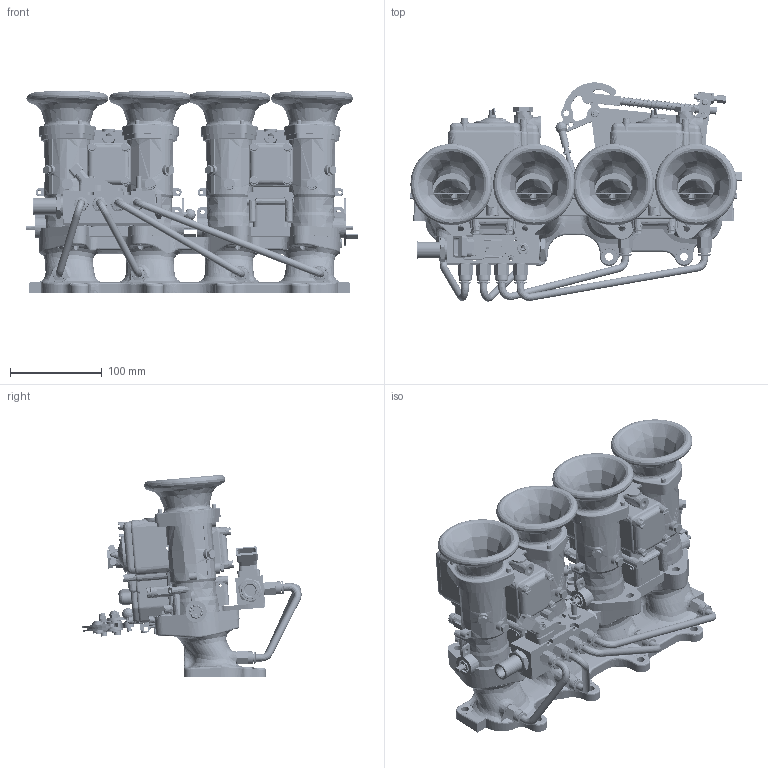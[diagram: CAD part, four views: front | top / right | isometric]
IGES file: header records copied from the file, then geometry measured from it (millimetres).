
Start section: SolidWorks IGES file using analytic representation for surfaces
Global section: file name: D:\??????? ? ?????\Mazda Mx-5 DCOE manifold\Mazda Mx-5 DCOE manifold surface\Mazda Mx-5 DCOE manifold.IGS; native system: SolidWorks 2019; preprocessor: SolidWorks 2019; author: GOD; date: 250313.214107; units: millimetre
Bounding box: 361.15 x 238.6 x 220.19 mm (x, y, z)
Surface area: 588081.8 mm2 (no closed solid volume)
Topology: 0 solids, 0 shells, 3968 faces, 58551 edges, 58411 vertices
Faces by surface type: revolution 2077, bspline 1891
